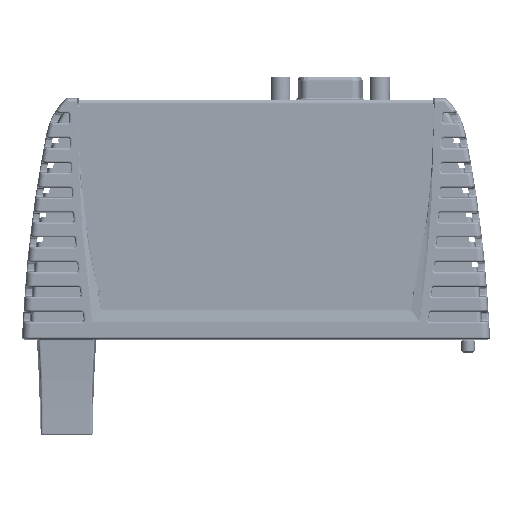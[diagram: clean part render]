
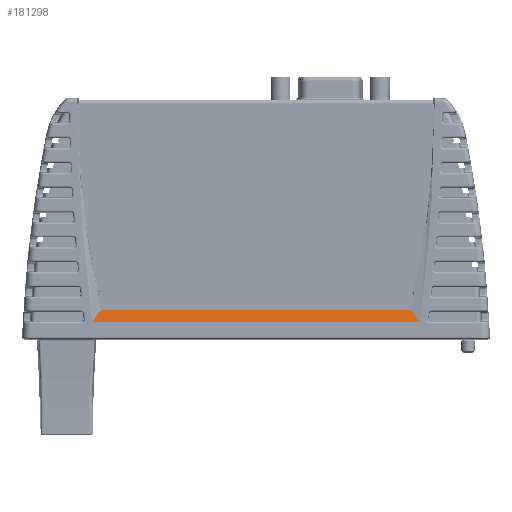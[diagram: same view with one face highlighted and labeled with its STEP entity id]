
A CAD part, left-side view. The second image highlights one B-rep face of the part: STEP entity #181298.
In plain terms, the highlighted planar face has unit normal (-0.986, 0, 0.164).
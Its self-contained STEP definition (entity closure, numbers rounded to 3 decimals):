
#9704 = LINE ( 'NONE', #47876, #97718 ) ;
#20197 = CARTESIAN_POINT ( 'NONE',  ( 0.467, 0., 27.5 ) ) ;
#41196 = VERTEX_POINT ( 'NONE', #315982 ) ;
#47876 = CARTESIAN_POINT ( 'NONE',  ( -8.7, 41.25, -27.5 ) ) ;
#55149 = EDGE_CURVE ( 'NONE', #254223, #67132, #387050, .T. ) ;
#57904 = DIRECTION ( 'NONE',  ( 0.986, 0., -0.164 ) ) ;
#57920 = LINE ( 'NONE', #178413, #245491 ) ;
#67132 = VERTEX_POINT ( 'NONE', #234979 ) ;
#85630 = DIRECTION ( 'NONE',  ( 0.132, -0.595, 0.793 ) ) ;
#86412 = CARTESIAN_POINT ( 'NONE',  ( -8.7, -41.25, -27.5 ) ) ;
#86559 = ORIENTED_EDGE ( 'NONE', *, *, #55149, .T. ) ;
#97718 = VECTOR ( 'NONE', #85630, 1000. ) ;
#132866 = EDGE_CURVE ( 'NONE', #41196, #287997, #9704, .T. ) ;
#140779 = DIRECTION ( 'NONE',  ( 0., -1., 0. ) ) ;
#155909 = ORIENTED_EDGE ( 'NONE', *, *, #421792, .F. ) ;
#178413 = CARTESIAN_POINT ( 'NONE',  ( -8.2, 39., -24.5 ) ) ;
#181298 = ADVANCED_FACE ( 'NONE', ( #398268 ), #282369, .F. ) ;
#234979 = CARTESIAN_POINT ( 'NONE',  ( -8.2, -39., -24.5 ) ) ;
#237825 = EDGE_CURVE ( 'NONE', #287997, #67132, #57920, .T. ) ;
#245491 = VECTOR ( 'NONE', #140779, 1000. ) ;
#250165 = CARTESIAN_POINT ( 'NONE',  ( -8.7, 41.25, -27.5 ) ) ;
#254223 = VERTEX_POINT ( 'NONE', #86412 ) ;
#282369 = PLANE ( 'NONE',  #341558 ) ;
#287403 = VECTOR ( 'NONE', #294043, 1000. ) ;
#287997 = VERTEX_POINT ( 'NONE', #380704 ) ;
#289556 = DIRECTION ( 'NONE',  ( 0., 1., 0. ) ) ;
#294043 = DIRECTION ( 'NONE',  ( 0.132, 0.595, 0.793 ) ) ;
#303916 = EDGE_LOOP ( 'NONE', ( #451872, #155909, #86559, #474435 ) ) ;
#315982 = CARTESIAN_POINT ( 'NONE',  ( -8.7, 41.25, -27.5 ) ) ;
#320001 = DIRECTION ( 'NONE',  ( 0.164, 0., 0.986 ) ) ;
#341485 = VECTOR ( 'NONE', #289556, 1000. ) ;
#341558 = AXIS2_PLACEMENT_3D ( 'NONE', #20197, #57904, #320001 ) ;
#353248 = LINE ( 'NONE', #250165, #341485 ) ;
#380704 = CARTESIAN_POINT ( 'NONE',  ( -8.2, 39., -24.5 ) ) ;
#387050 = LINE ( 'NONE', #480913, #287403 ) ;
#398268 = FACE_OUTER_BOUND ( 'NONE', #303916, .T. ) ;
#421792 = EDGE_CURVE ( 'NONE', #254223, #41196, #353248, .T. ) ;
#451872 = ORIENTED_EDGE ( 'NONE', *, *, #132866, .F. ) ;
#474435 = ORIENTED_EDGE ( 'NONE', *, *, #237825, .F. ) ;
#480913 = CARTESIAN_POINT ( 'NONE',  ( -8.45, -40.125, -26. ) ) ;
